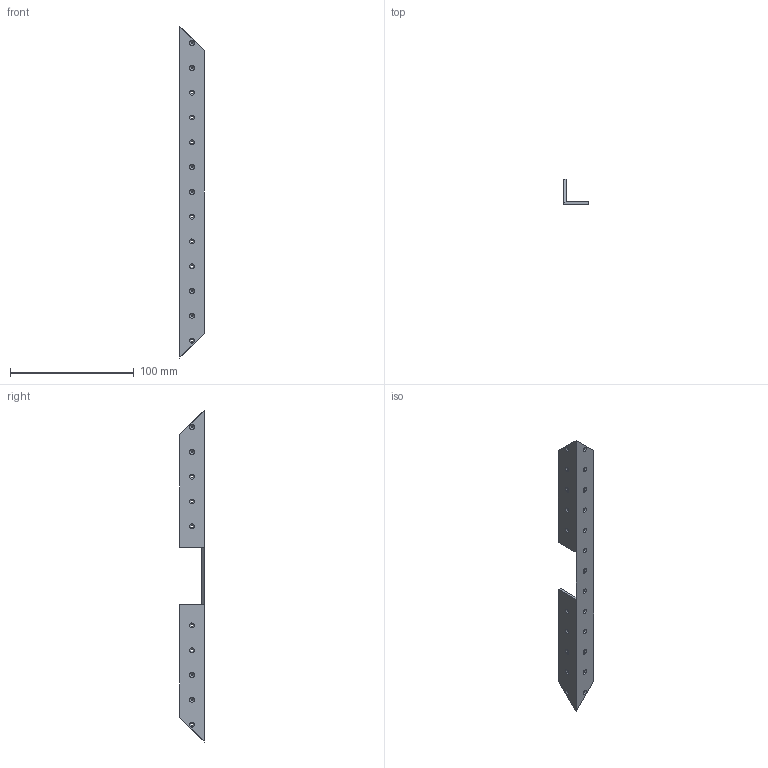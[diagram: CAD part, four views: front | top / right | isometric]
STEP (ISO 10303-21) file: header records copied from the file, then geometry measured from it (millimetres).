
FILE_DESCRIPTION (( 'STEP AP214' ), '1' );
FILE_NAME ('SC64.STEP', '2016-02-26T17:34:08', ( '' ), ( '' ), 'SwSTEP 2.0', 'SolidWorks 2012', '' );
FILE_SCHEMA (( 'AUTOMOTIVE_DESIGN' ));
Length unit declared in the file: millimetre
Products named in the file (1): SC64
Bounding box: 20 x 20 x 267.8 mm (x, y, z)
Volume: 16761.7 mm3; surface area: 18335.4 mm2
Topology: 1 solids, 1 shells, 108 faces, 310 edges, 204 vertices
Faces by surface type: cone 46, cylinder 46, plane 16
Entity records: 3760 total; most frequent: DIRECTION 712, CARTESIAN_POINT 623, ORIENTED_EDGE 620, EDGE_CURVE 310, AXIS2_PLACEMENT_3D 293, VERTEX_POINT 204, CIRCLE 184, EDGE_LOOP 154
